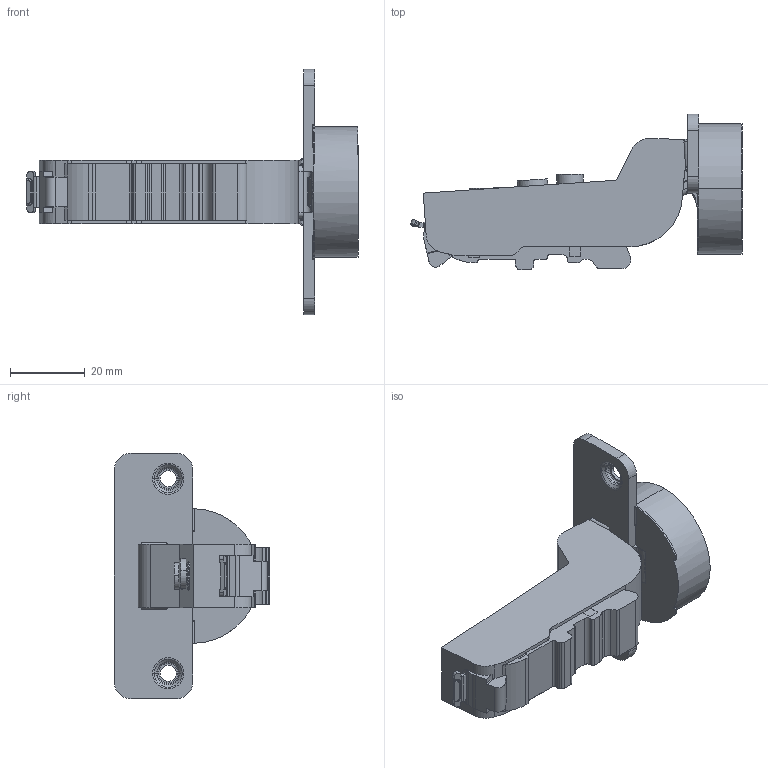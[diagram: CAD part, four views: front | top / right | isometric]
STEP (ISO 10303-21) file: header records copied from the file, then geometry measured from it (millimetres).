
FILE_DESCRIPTION (( 'STEP AP203' ), '1' );
FILE_NAME ('C81C817FAB DTC 3D CLOSE.STEP', '2024-07-19T08:19:33', ( '微软用户' ), ( '微软中国' ), 'SwSTEP 2.0', 'SolidWorks 2021', '' );
FILE_SCHEMA (( 'CONFIG_CONTROL_DESIGN' ));
Length unit declared in the file: millimetre
Products named in the file (1): C81C817FAB DTC 3D CLOSE
Bounding box: 88.73 x 41.53 x 65.6 mm (x, y, z)
Volume: 40353.2 mm3; surface area: 12088.5 mm2
Topology: 1 solids, 2 shells, 407 faces, 1172 edges, 766 vertices
Faces by surface type: plane 181, cylinder 152, torus 36, bspline 26, cone 12
Entity records: 14869 total; most frequent: CARTESIAN_POINT 4403, ORIENTED_EDGE 2344, DIRECTION 2030, EDGE_CURVE 1172, VERTEX_POINT 766, AXIS2_PLACEMENT_3D 706, VECTOR 618, LINE 618
